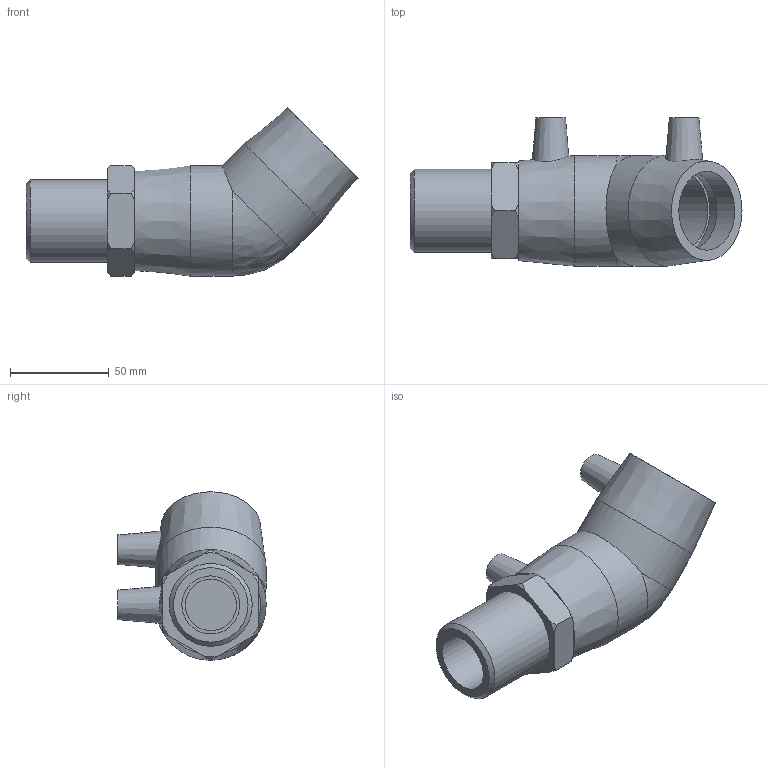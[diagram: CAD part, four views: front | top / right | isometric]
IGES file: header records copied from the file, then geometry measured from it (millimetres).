
Global section: file name: 492604040013N.ipt; native system: Autodesk Inventor 2015; preprocessor: unknown; author: KIM; date: 20200202.122420; units: millimetre
Bounding box: 168 x 75 x 85.24 mm (x, y, z)
Volume: 217336.6 mm3; surface area: 53286.4 mm2
Topology: 1 solids, 2 shells, 61 faces, 146 edges, 99 vertices
Faces by surface type: plane 25, cone 17, revolution 10, cylinder 8, bspline 1
Full cylindrical faces by diameter (mm): 4 x2, 40 x2, 41.91 x1, 56 x2
